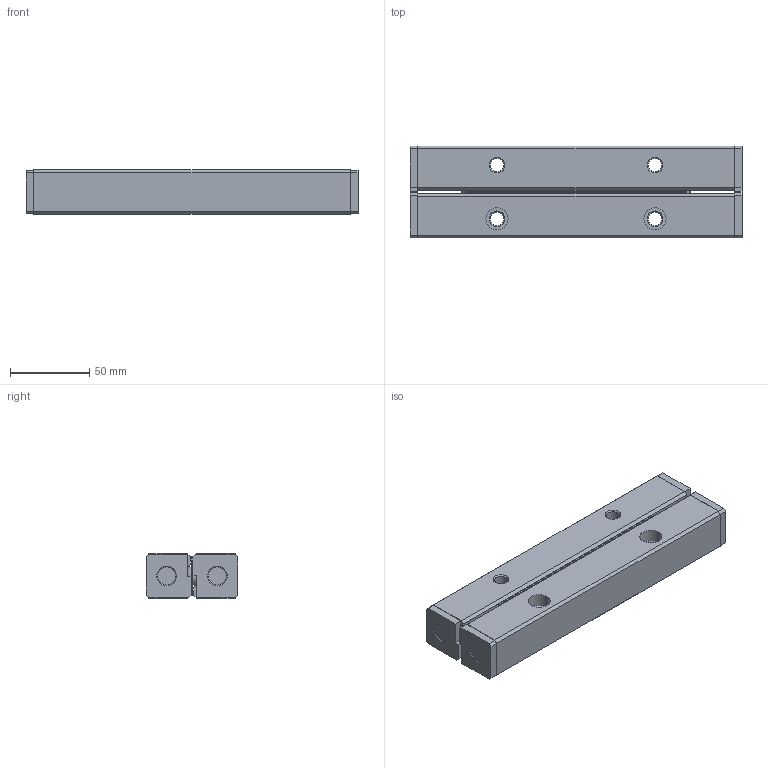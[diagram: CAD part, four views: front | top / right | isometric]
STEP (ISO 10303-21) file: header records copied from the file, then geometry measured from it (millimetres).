
FILE_DESCRIPTION(/* description */ ('STEP AP214'),/* implementation_level */ '2;1');
FILE_NAME(/* name */ 'VB12-200Hx7Z(0)',/* time_stamp */ '2024-09-19T10:04:55+02:00',/* author */ ('License CC BY-ND 4.0'),/* organization */ ('CADENAS'),/* preprocessor_version */ 'ST-DEVELOPER v19.3',/* originating_system */ 'PARTsolutions',/* authorisation */ ' ');
FILE_SCHEMA (('AUTOMOTIVE_DESIGN {1 0 10303 214 3 1 1}'));
Length unit declared in the file: millimetre
Products named in the file (3): VB12-200Hx7Z(0); VR12-200*7Z Ball guide; VR12-200*7Z Ball cage
Assembly tree (3 placements, depth 2):
  VB12-200Hx7Z(0)
    VR12-200*7Z Ball guide  x2
    VR12-200*7Z Ball cage
Bounding box: 210 x 58 x 28 mm (x, y, z)
Volume: 302999.9 mm3; surface area: 63086.4 mm2
Topology: 3 solids, 3 shells, 122 faces, 280 edges, 186 vertices
Faces by surface type: plane 88, sphere 14, cone 12, cylinder 8
Full cylindrical faces by diameter (mm): 8.5 x4, 14 x4
Entity records: 2032 total; most frequent: CARTESIAN_POINT 334, DIRECTION 333, ORIENTED_EDGE 298, EDGE_CURVE 149, LINE 119, VECTOR 119, VERTEX_POINT 108, AXIS2_PLACEMENT_3D 107
